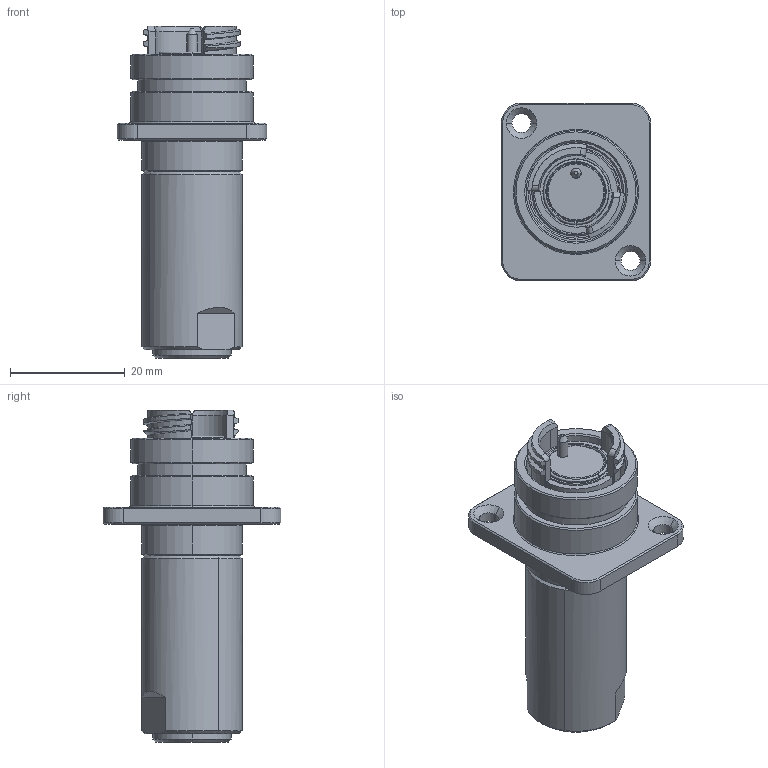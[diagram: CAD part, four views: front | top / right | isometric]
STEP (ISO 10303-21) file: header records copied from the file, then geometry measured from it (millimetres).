
FILE_DESCRIPTION (( 'STEP AP214' ), '1' );
FILE_NAME ('QMICRO-RXXX-XXXX-LXX.STEP', '2025-05-02T23:46:10', ( '' ), ( '' ), 'SwSTEP 2.0', 'SolidWorks 2024', '' );
FILE_SCHEMA (( 'AUTOMOTIVE_DESIGN' ));
Length unit declared in the file: inch
Products named in the file (1): QMICRO-RXXX-XXXX-LXX
Bounding box: 26 x 31 x 57.83 mm (x, y, z)
Volume: 15121.2 mm3; surface area: 6056.4 mm2
Topology: 1 solids, 3 shells, 198 faces, 463 edges, 285 vertices
Faces by surface type: cylinder 66, plane 57, cone 51, bspline 16, torus 8
Entity records: 8761 total; most frequent: CARTESIAN_POINT 4357, ORIENTED_EDGE 926, DIRECTION 902, EDGE_CURVE 463, AXIS2_PLACEMENT_3D 352, VERTEX_POINT 285, EDGE_LOOP 216, LINE 198
